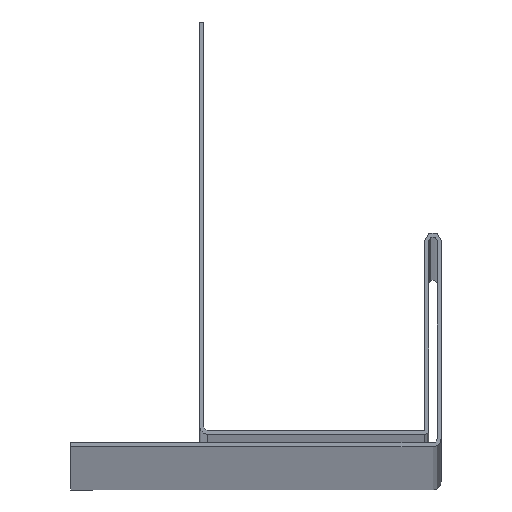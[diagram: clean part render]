
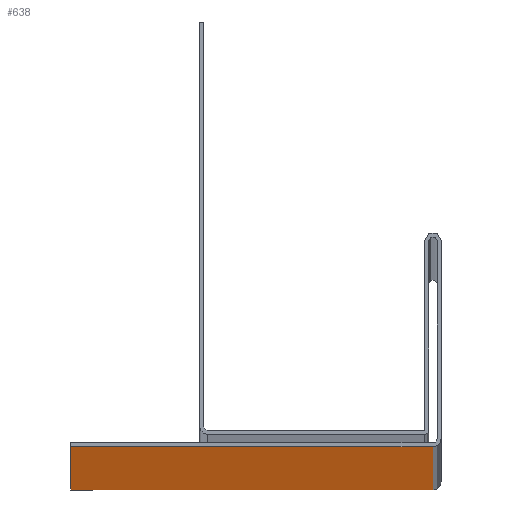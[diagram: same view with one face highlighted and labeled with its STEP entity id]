
A CAD part, top view. The second image highlights one B-rep face of the part: STEP entity #638.
In plain terms, the highlighted planar face has unit normal (0, -1, 0).
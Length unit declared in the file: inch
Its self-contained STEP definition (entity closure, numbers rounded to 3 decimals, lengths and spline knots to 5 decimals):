
#19 = VERTEX_POINT ( 'NONE', #588 ) ;
#30 = VERTEX_POINT ( 'NONE', #205 ) ;
#39 = PLANE ( 'NONE',  #727 ) ;
#64 = LINE ( 'NONE', #148, #764 ) ;
#148 = CARTESIAN_POINT ( 'NONE',  ( 1.13188, -0.06, 120. ) ) ;
#159 = VECTOR ( 'NONE', #244, 39.37008 ) ;
#171 = FACE_OUTER_BOUND ( 'NONE', #537, .T. ) ;
#186 = CARTESIAN_POINT ( 'NONE',  ( 1.13188, -0.06, 120. ) ) ;
#203 = ORIENTED_EDGE ( 'NONE', *, *, #243, .T. ) ;
#205 = CARTESIAN_POINT ( 'NONE',  ( 1.13188, -0.06, 120. ) ) ;
#214 = EDGE_CURVE ( 'NONE', #30, #513, #64, .T. ) ;
#225 = VERTEX_POINT ( 'NONE', #438 ) ;
#243 = EDGE_CURVE ( 'NONE', #19, #225, #561, .T. ) ;
#244 = DIRECTION ( 'NONE',  ( -1., 0., 0. ) ) ;
#255 = LINE ( 'NONE', #186, #780 ) ;
#270 = DIRECTION ( 'NONE',  ( 1., 0., 0. ) ) ;
#281 = CARTESIAN_POINT ( 'NONE',  ( 1.13188, -0.06, 120. ) ) ;
#289 = CARTESIAN_POINT ( 'NONE',  ( 1.13187, -0.06, 0. ) ) ;
#292 = EDGE_CURVE ( 'NONE', #30, #19, #255, .T. ) ;
#299 = EDGE_CURVE ( 'NONE', #513, #225, #460, .T. ) ;
#329 = DIRECTION ( 'NONE',  ( -1., 0., 0. ) ) ;
#336 = DIRECTION ( 'NONE',  ( 0., -1., 0. ) ) ;
#438 = CARTESIAN_POINT ( 'NONE',  ( -0.625, -0.06, 0. ) ) ;
#443 = CARTESIAN_POINT ( 'NONE',  ( 1.13187, -0.06, 0. ) ) ;
#459 = CARTESIAN_POINT ( 'NONE',  ( -0.625, -0.06, 120. ) ) ;
#460 = LINE ( 'NONE', #443, #159 ) ;
#513 = VERTEX_POINT ( 'NONE', #289 ) ;
#521 = DIRECTION ( 'NONE',  ( 0., 0., -1. ) ) ;
#537 = EDGE_LOOP ( 'NONE', ( #579, #760, #553, #203 ) ) ;
#553 = ORIENTED_EDGE ( 'NONE', *, *, #292, .T. ) ;
#561 = LINE ( 'NONE', #459, #746 ) ;
#579 = ORIENTED_EDGE ( 'NONE', *, *, #299, .F. ) ;
#588 = CARTESIAN_POINT ( 'NONE',  ( -0.625, -0.06, 120. ) ) ;
#638 = ADVANCED_FACE ( 'NONE', ( #171 ), #39, .T. ) ;
#727 = AXIS2_PLACEMENT_3D ( 'NONE', #281, #336, #270 ) ;
#738 = DIRECTION ( 'NONE',  ( 0., 0., -1. ) ) ;
#746 = VECTOR ( 'NONE', #738, 39.37008 ) ;
#760 = ORIENTED_EDGE ( 'NONE', *, *, #214, .F. ) ;
#764 = VECTOR ( 'NONE', #521, 39.37008 ) ;
#780 = VECTOR ( 'NONE', #329, 39.37008 ) ;
